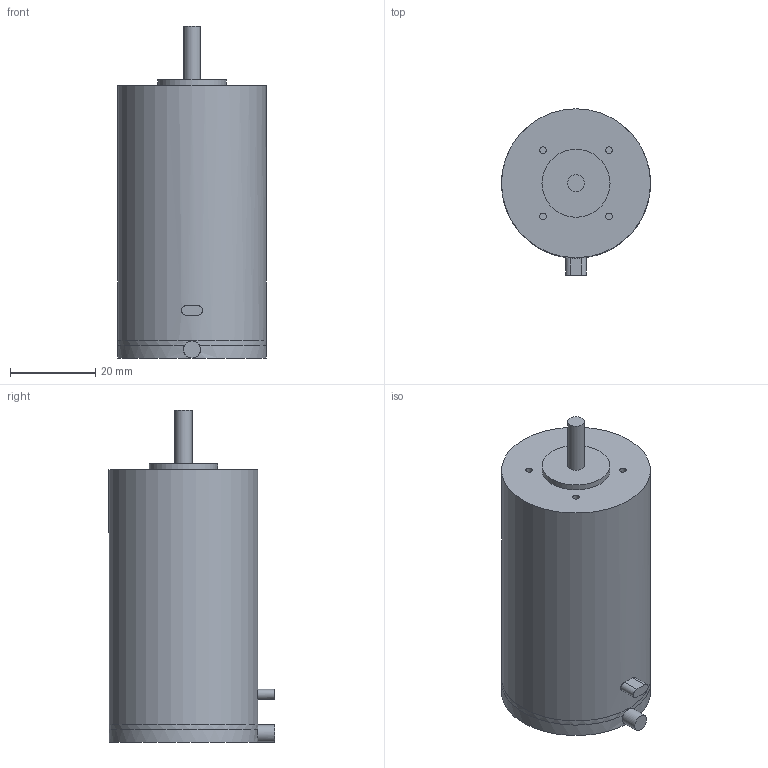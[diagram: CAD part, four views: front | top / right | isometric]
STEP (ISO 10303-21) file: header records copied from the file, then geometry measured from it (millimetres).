
FILE_DESCRIPTION((''),'2;1');
FILE_NAME('G:\Disegni\Progetti\D8500÷D8599\D8514\Motori\C - Motori Step\3564 stp\3564KxxxB.stp','2013-06-24T10:41:24',('mangiullo'),(''),'Autodesk Inventor 2012','Autodesk Inventor 2012','');
FILE_SCHEMA(('AUTOMOTIVE_DESIGN { 1 0 10303 214 1 1 1 1 }'));
Length unit declared in the file: millimetre
Products named in the file (1): 3564KxxxB
Bounding box: 35 x 39 x 78 mm (x, y, z)
Volume: 62068.2 mm3; surface area: 9390.2 mm2
Topology: 1 solids, 1 shells, 24 faces, 47 edges, 31 vertices
Faces by surface type: cylinder 12, plane 12
Full cylindrical faces by diameter (mm): 1.567 x4, 4 x2, 16 x1, 35 x3
Entity records: 639 total; most frequent: CARTESIAN_POINT 158, DIRECTION 98, ORIENTED_EDGE 64, AXIS2_PLACEMENT_3D 46, EDGE_LOOP 40, EDGE_CURVE 32, VERTEX_POINT 26, FACE_OUTER_BOUND 24
